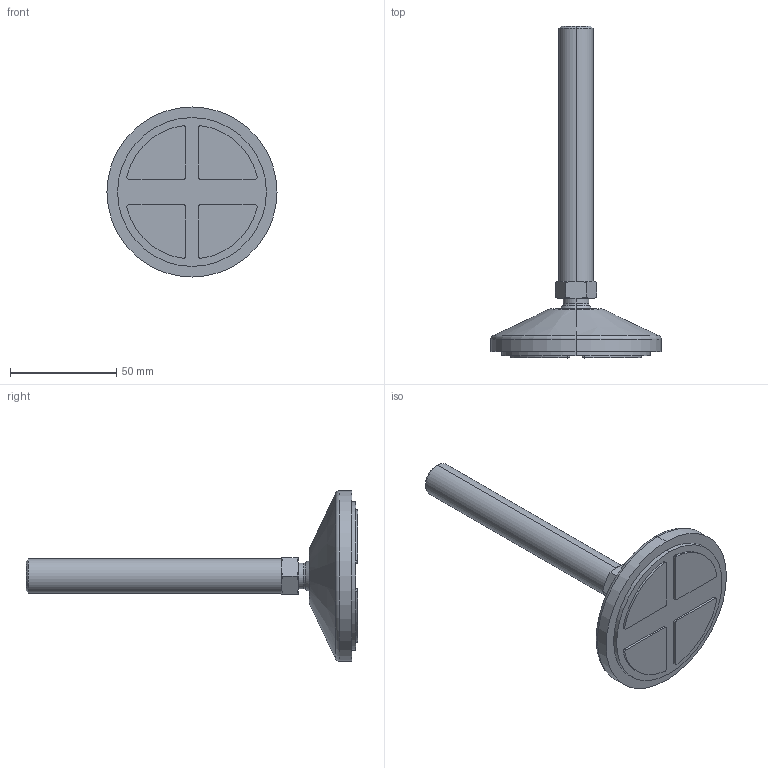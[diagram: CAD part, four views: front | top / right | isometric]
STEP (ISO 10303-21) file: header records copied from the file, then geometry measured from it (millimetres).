
FILE_DESCRIPTION (( 'STEP AP214' ), '1' );
FILE_NAME ('1.5024 S鳵t鐱alka D80 M16.STEP', '2025-09-17T08:19:21', ( '' ), ( '' ), 'SwSTEP 2.0', 'SolidWorks 2025', '' );
FILE_SCHEMA (( 'AUTOMOTIVE_DESIGN' ));
Length unit declared in the file: millimetre
Products named in the file (1): 1.5024 Säätöjalka D80 M16
Bounding box: 80 x 156 x 80 mm (x, y, z)
Volume: 102296.4 mm3; surface area: 20010.3 mm2
Topology: 1 solids, 1 shells, 79 faces, 178 edges, 110 vertices
Faces by surface type: cylinder 30, plane 25, cone 18, torus 6
Entity records: 3091 total; most frequent: CARTESIAN_POINT 480, DIRECTION 402, ORIENTED_EDGE 356, EDGE_CURVE 178, AXIS2_PLACEMENT_3D 168, VERTEX_POINT 110, CIRCLE 88, EDGE_LOOP 88
